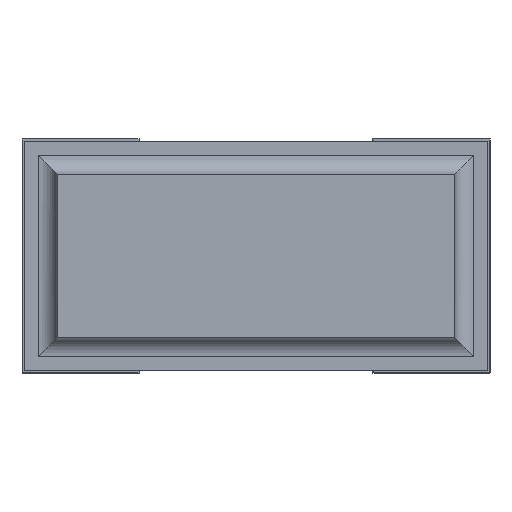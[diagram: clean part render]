
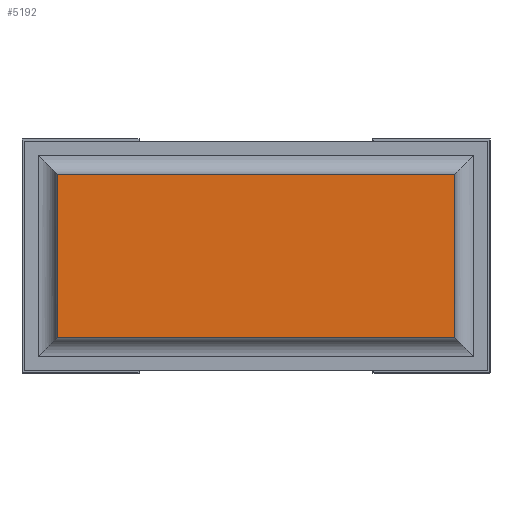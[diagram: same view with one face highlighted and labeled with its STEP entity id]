
A CAD part, front view. The second image highlights one B-rep face of the part: STEP entity #5192.
In plain terms, the highlighted planar face has unit normal (0, -1, 0).
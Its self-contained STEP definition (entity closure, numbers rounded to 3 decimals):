
#318=FACE_OUTER_BOUND('',#603,.T.);
#603=EDGE_LOOP('',(#3999,#4000,#4001,#4002));
#1043=LINE('',#7854,#1699);
#1047=LINE('',#7868,#1703);
#1056=LINE('',#7884,#1712);
#1057=LINE('',#7886,#1713);
#1699=VECTOR('',#6365,10.);
#1703=VECTOR('',#6377,10.);
#1712=VECTOR('',#6392,10.);
#1713=VECTOR('',#6395,10.);
#2299=VERTEX_POINT('',#7850);
#2300=VERTEX_POINT('',#7852);
#2305=VERTEX_POINT('',#7865);
#2306=VERTEX_POINT('',#7867);
#2901=EDGE_CURVE('',#2299,#2300,#1043,.T.);
#2907=EDGE_CURVE('',#2305,#2306,#1047,.T.);
#2916=EDGE_CURVE('',#2299,#2305,#1056,.T.);
#2917=EDGE_CURVE('',#2306,#2300,#1057,.T.);
#3999=ORIENTED_EDGE('',*,*,#2907,.F.);
#4000=ORIENTED_EDGE('',*,*,#2916,.F.);
#4001=ORIENTED_EDGE('',*,*,#2901,.T.);
#4002=ORIENTED_EDGE('',*,*,#2917,.F.);
#4949=PLANE('',#5556);
#5192=ADVANCED_FACE('',(#318),#4949,.T.);
#5556=AXIS2_PLACEMENT_3D('',#7885,#6393,#6394);
#6365=DIRECTION('',(0.,0.,-1.));
#6377=DIRECTION('',(0.,0.,-1.));
#6392=DIRECTION('',(1.,0.,0.));
#6393=DIRECTION('center_axis',(0.,-1.,0.));
#6394=DIRECTION('ref_axis',(0.,0.,-1.));
#6395=DIRECTION('',(-1.,0.,0.));
#7850=CARTESIAN_POINT('',(0.075,0.,0.425));
#7852=CARTESIAN_POINT('',(0.075,0.,0.075));
#7854=CARTESIAN_POINT('',(0.075,0.,0.425));
#7865=CARTESIAN_POINT('',(0.925,0.,0.425));
#7867=CARTESIAN_POINT('',(0.925,0.,0.075));
#7868=CARTESIAN_POINT('',(0.925,0.,0.425));
#7884=CARTESIAN_POINT('',(0.075,0.,0.425));
#7885=CARTESIAN_POINT('Origin',(0.926,0.,0.25));
#7886=CARTESIAN_POINT('',(0.925,0.,0.075));
